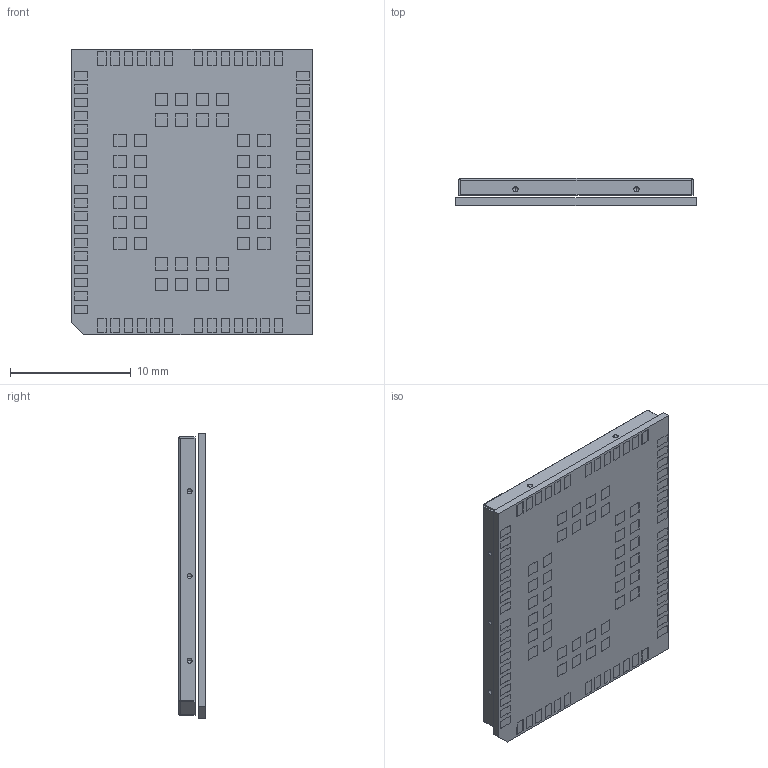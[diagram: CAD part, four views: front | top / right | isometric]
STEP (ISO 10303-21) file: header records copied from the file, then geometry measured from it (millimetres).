
FILE_DESCRIPTION((''),'2;1');
FILE_NAME('QUECTEL_BG95_3D_DIMENSIONS_ASM','2019-07-16T',('siler.liu'),(''),'CREO PARAMETRIC BY PTC INC, 2014190','CREO PARAMETRIC BY PTC INC, 2014190','');
FILE_SCHEMA(('AUTOMOTIVE_DESIGN { 1 0 10303 214 1 1 1 1 }'));
Products named in the file (3): BG95_COVER; BG95_PCB; QUECTEL_BG95_3D_DIMENSIONS_ASM
Assembly tree (2 placements, depth 2):
  QUECTEL_BG95_3D_DIMENSIONS_ASM
    BG95_COVER
    BG95_PCB
Bounding box: 19.9 x 2.2 x 23.6 mm (x, y, z)
Volume: 360.1 mm3; surface area: 2109.1 mm2
Topology: 2 solids, 2 shells, 2383 faces, 6335 edges, 4136 vertices
Faces by surface type: plane 2290, extrusion 46, sphere 40, cylinder 7
Entity records: 93061 total; most frequent: CARTESIAN_POINT 13293, ORIENTED_EDGE 12590, DIRECTION 11027, PRESENTATION_STYLE_ASSIGNMENT 6439, STYLED_ITEM 6297, CURVE_STYLE 6295, EDGE_CURVE 6295, VECTOR 6155
